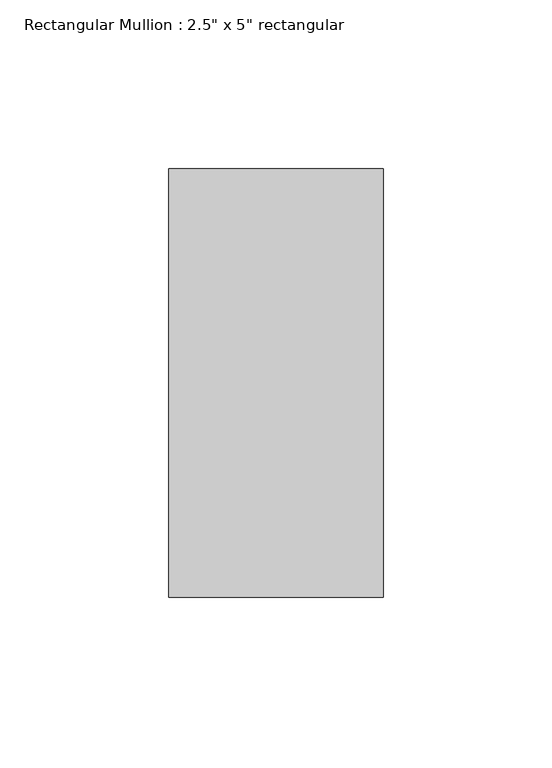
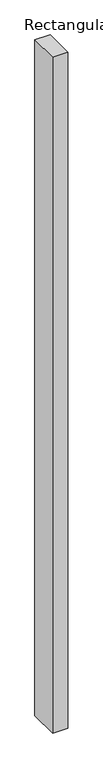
"""IFC4 building model written with IfcOpenShell, lengths in millimetres: member geometry."""

from ifc_helpers import new_model, si_unit, frame, origin, place, context, project, spatial, polyline, outline, extrude, source, transform, mapped, element, save


def member_268c476f(model_context):
    return source(origin(), model_context, "Body", "SweptSolid", [
        extrude(outline(polyline([(31.75, 63.5), (31.75, -63.5), (-31.75, -63.5), (-31.75, 63.5), (31.75, 63.5)])), frame((0.0, 0.0, -2968.625), z_axis=(0.0, 0.0, 1.0), x_axis=(1.0, 0.0, 0.0)), (0.0, 0.0, 1.0), 2968.625),
    ])


if __name__ == "__main__":
    model = new_model("IFC4")
    model_context = context("Model", 3, world=origin())
    ifc_project = project(units=[si_unit("LENGTHUNIT", "METRE", prefix="MILLI")], contexts=[model_context])
    site = spatial("IfcSite", under=ifc_project)
    building = spatial("IfcBuilding", under=site)
    placement = place(None, origin())
    member_shape = member_268c476f(model_context)
    element("IfcMember", 1, ObjectType="Rectangular Mullion : 2.5\" x 5\" rectangular", at=placement, inside=building, context=model_context, shape_type="MappedRepresentation", body=[
        mapped(member_shape, transform((0.0, 0.0, 0.0), x_axis=(1.0, 0.0, 0.0), y_axis=(0.0, 1.0, 0.0), z_axis=(0.0, 0.0, 1.0))),
    ])
    save(model, "model.ifc")
